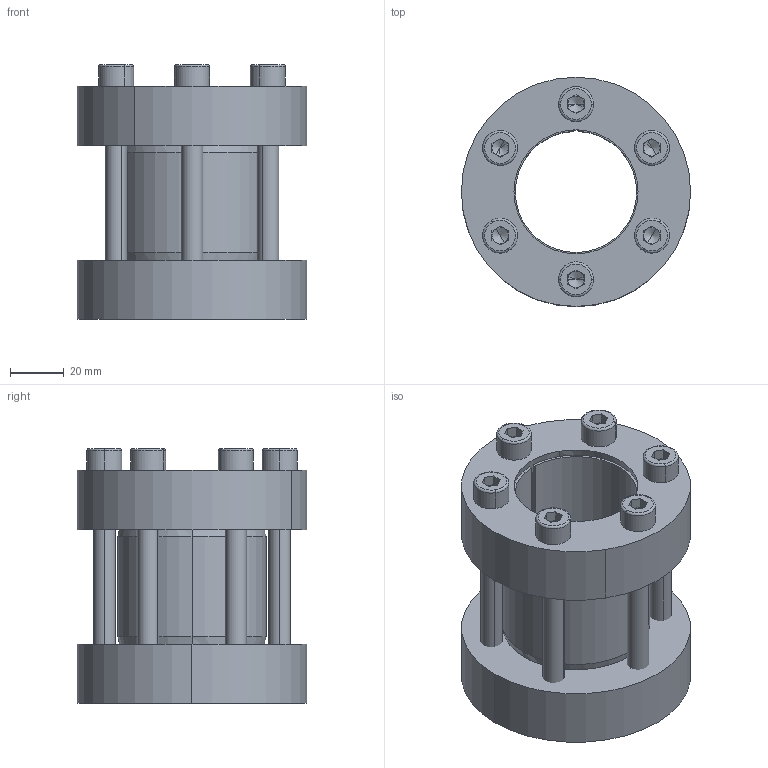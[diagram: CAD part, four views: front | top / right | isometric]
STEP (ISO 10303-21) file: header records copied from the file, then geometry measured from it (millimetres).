
FILE_DESCRIPTION (( 'STEP AP214' ), '1' );
FILE_NAME ('CONEX-M-45x85.step', '2013-04-06T13:25:37', ( 'Pc' ), ( '' ), 'SwSTEP 2.0', 'SolidWorks 2013', '' );
FILE_SCHEMA (( 'AUTOMOTIVE_DESIGN' ));
Length unit declared in the file: millimetre
Products named in the file (1): CONEX-M-45x85
Bounding box: 85 x 85 x 94.49 mm (x, y, z)
Volume: 228148.7 mm3; surface area: 80464.3 mm2
Topology: 9 solids, 9 shells, 214 faces, 482 edges, 286 vertices
Faces by surface type: plane 98, cylinder 58, cone 34, torus 24
Entity records: 8399 total; most frequent: DIRECTION 1122, CARTESIAN_POINT 998, ORIENTED_EDGE 940, EDGE_CURVE 470, AXIS2_PLACEMENT_3D 441, VERTEX_POINT 286, EDGE_LOOP 254, LINE 240
